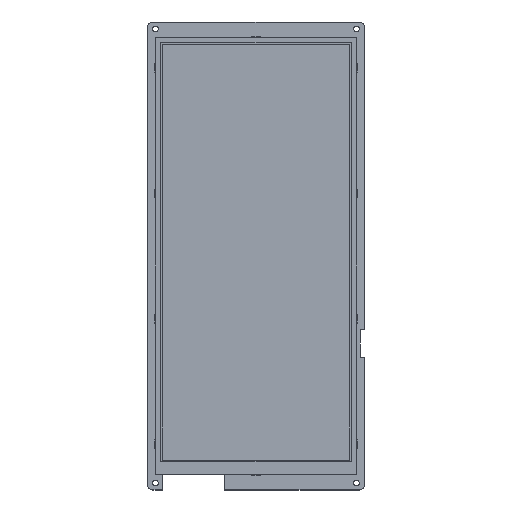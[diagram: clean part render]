
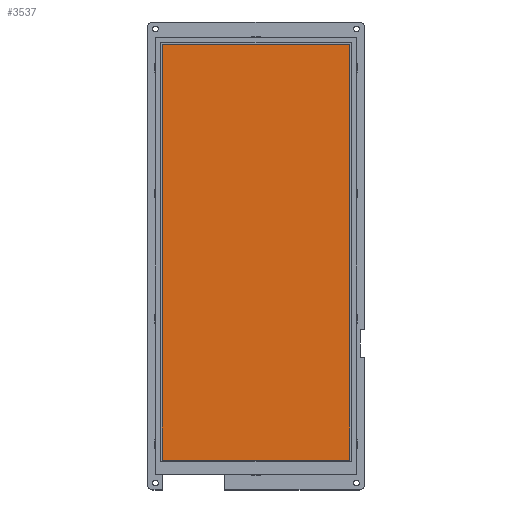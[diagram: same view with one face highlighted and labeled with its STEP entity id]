
A CAD part, top view. The second image highlights one B-rep face of the part: STEP entity #3537.
In plain terms, the highlighted planar face has unit normal (0, 0, 1).
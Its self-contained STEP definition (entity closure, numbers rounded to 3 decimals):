
#72=DIRECTION('',(-1.,0.,0.));
#73=VECTOR('',#72,108.);
#74=CARTESIAN_POINT('',(54.,122.25,-0.15));
#75=LINE('',#74,#73);
#76=DIRECTION('',(0.,1.,0.));
#77=VECTOR('',#76,240.);
#78=CARTESIAN_POINT('',(54.,-117.75,-0.15));
#79=LINE('',#78,#77);
#80=DIRECTION('',(1.,0.,0.));
#81=VECTOR('',#80,108.);
#82=CARTESIAN_POINT('',(-54.,-117.75,-0.15));
#83=LINE('',#82,#81);
#84=DIRECTION('',(0.,-1.,0.));
#85=VECTOR('',#84,240.);
#86=CARTESIAN_POINT('',(-54.,122.25,-0.15));
#87=LINE('',#86,#85);
#2628=CARTESIAN_POINT('',(54.,122.25,-0.15));
#2629=CARTESIAN_POINT('',(-54.,122.25,-0.15));
#2630=VERTEX_POINT('',#2628);
#2631=VERTEX_POINT('',#2629);
#2632=CARTESIAN_POINT('',(-54.,-117.75,-0.15));
#2633=VERTEX_POINT('',#2632);
#2634=CARTESIAN_POINT('',(54.,-117.75,-0.15));
#2635=VERTEX_POINT('',#2634);
#3526=CARTESIAN_POINT('',(0.,0.,-0.15));
#3527=DIRECTION('',(0.,0.,1.));
#3528=DIRECTION('',(1.,0.,0.));
#3529=AXIS2_PLACEMENT_3D('',#3526,#3527,#3528);
#3530=PLANE('',#3529);
#3531=ORIENTED_EDGE('',*,*,#3478,.F.);
#3532=ORIENTED_EDGE('',*,*,#3493,.F.);
#3533=ORIENTED_EDGE('',*,*,#3507,.F.);
#3534=ORIENTED_EDGE('',*,*,#3520,.F.);
#3535=EDGE_LOOP('',(#3531,#3532,#3533,#3534));
#3536=FACE_OUTER_BOUND('',#3535,.F.);
#3478=EDGE_CURVE('',#2630,#2631,#75,.T.);
#3493=EDGE_CURVE('',#2635,#2630,#79,.T.);
#3507=EDGE_CURVE('',#2633,#2635,#83,.T.);
#3520=EDGE_CURVE('',#2631,#2633,#87,.T.);
#3537=ADVANCED_FACE('',(#3536),#3530,.T.);
